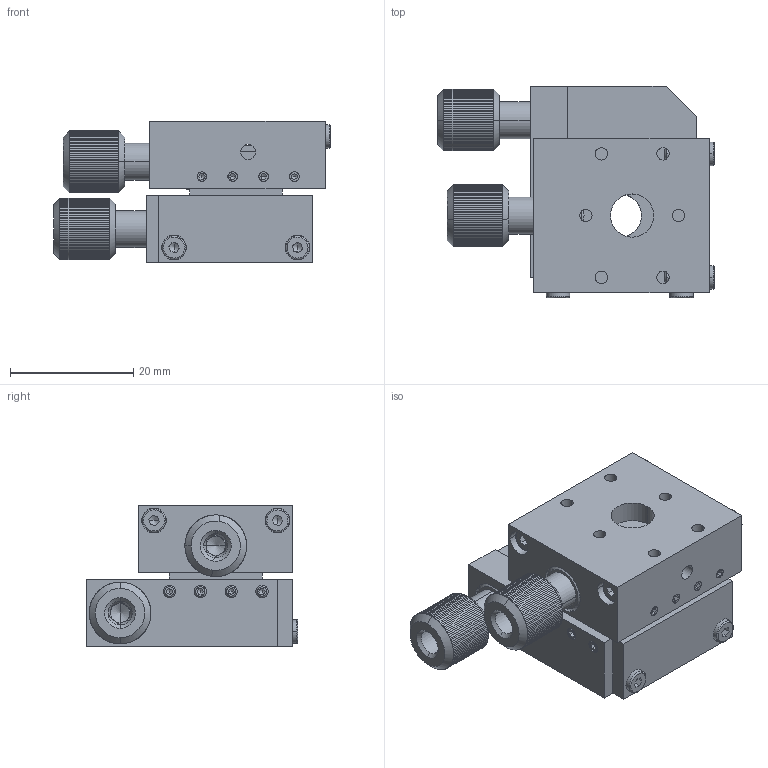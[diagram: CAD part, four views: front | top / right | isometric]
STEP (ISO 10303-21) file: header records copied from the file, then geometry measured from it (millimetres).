
FILE_DESCRIPTION (( 'STEP AP203' ), '1' );
FILE_NAME ('7T228T.STEP', '2008-03-05T21:22:08', ( 'STANDA' ), ( '' ), 'SwSTEP 2.0', 'SolidWorks 2003240', '' );
FILE_SCHEMA (( 'CONFIG_CONTROL_DESIGN' ));
Length unit declared in the file: millimetre
Products named in the file (1): 7T228T
Bounding box: 44.8 x 34.3 x 23 mm (x, y, z)
Volume: 14315.6 mm3; surface area: 11495.4 mm2
Topology: 1 solids, 8 shells, 1364 faces, 3358 edges, 2032 vertices
Faces by surface type: plane 956, cylinder 211, cone 182, bspline 15
Entity records: 40232 total; most frequent: CARTESIAN_POINT 8144, DIRECTION 6762, ORIENTED_EDGE 6598, EDGE_CURVE 3299, AXIS2_PLACEMENT_3D 2400, VERTEX_POINT 2032, VECTOR 1962, LINE 1962
